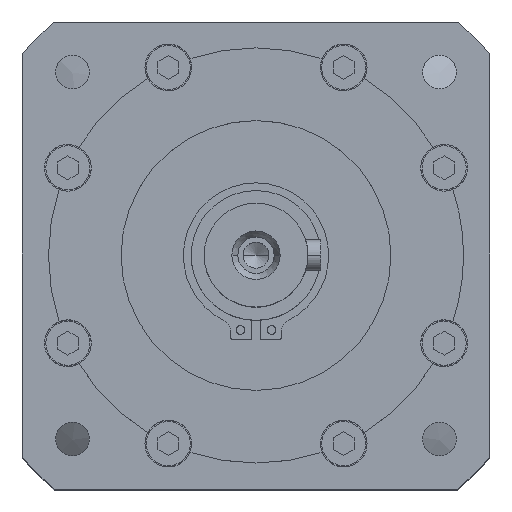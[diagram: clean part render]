
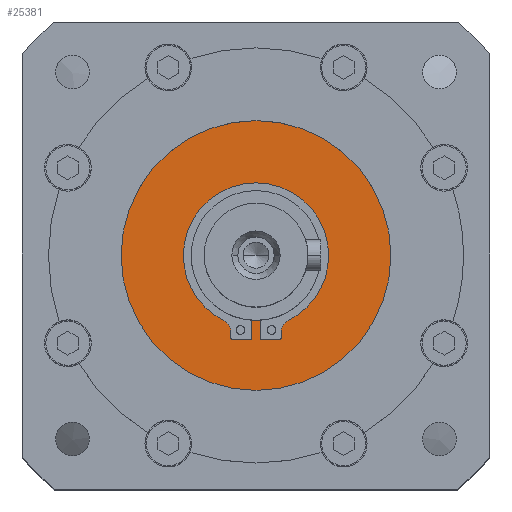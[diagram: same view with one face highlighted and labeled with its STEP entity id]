
A CAD part, top view. The second image highlights one B-rep face of the part: STEP entity #25381.
In plain terms, the highlighted planar face has unit normal (0, 0, 1).
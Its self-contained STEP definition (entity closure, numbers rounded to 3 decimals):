
#159 = EDGE_CURVE ( 'NONE', #29884, #28999, #27713, .T. ) ;
#220 = ORIENTED_EDGE ( 'NONE', *, *, #12203, .F. ) ;
#523 = CIRCLE ( 'NONE', #808, 14. ) ;
#554 = DIRECTION ( 'NONE',  ( 1., 0., 0. ) ) ;
#628 = VERTEX_POINT ( 'NONE', #10510 ) ;
#808 = AXIS2_PLACEMENT_3D ( 'NONE', #20336, #10977, #16432 ) ;
#1305 = EDGE_CURVE ( 'NONE', #21038, #26041, #29441, .T. ) ;
#1540 = DIRECTION ( 'NONE',  ( 0., 1., 0. ) ) ;
#1590 = ORIENTED_EDGE ( 'NONE', *, *, #14508, .T. ) ;
#1716 = CARTESIAN_POINT ( 'NONE',  ( -0.85, 0., -2.5 ) ) ;
#2380 = FACE_BOUND ( 'NONE', #7178, .T. ) ;
#2813 = AXIS2_PLACEMENT_3D ( 'NONE', #22377, #20304, #20301 ) ;
#3225 = ORIENTED_EDGE ( 'NONE', *, *, #15211, .F. ) ;
#3475 = VERTEX_POINT ( 'NONE', #12165 ) ;
#3500 = VERTEX_POINT ( 'NONE', #13215 ) ;
#3594 = DIRECTION ( 'NONE',  ( 0., 1., 0. ) ) ;
#3627 = CARTESIAN_POINT ( 'NONE',  ( 4.85, 0., -2.5 ) ) ;
#3633 = VECTOR ( 'NONE', #554, 1000. ) ;
#3739 = VERTEX_POINT ( 'NONE', #29012 ) ;
#3824 = DIRECTION ( 'NONE',  ( -1., 0., 0. ) ) ;
#3859 = DIRECTION ( 'NONE',  ( 0., 0., 1. ) ) ;
#3861 = CARTESIAN_POINT ( 'NONE',  ( 0., 0., -2.5 ) ) ;
#3950 = DIRECTION ( 'NONE',  ( 0., 0., 1. ) ) ;
#4196 = VECTOR ( 'NONE', #7322, 1000. ) ;
#4237 = DIRECTION ( 'NONE',  ( 0., 0., -1. ) ) ;
#4371 = ORIENTED_EDGE ( 'NONE', *, *, #1305, .F. ) ;
#4476 = DIRECTION ( 'NONE',  ( 1., 0., 0. ) ) ;
#5043 = VERTEX_POINT ( 'NONE', #15648 ) ;
#5257 = ORIENTED_EDGE ( 'NONE', *, *, #19898, .F. ) ;
#5533 = AXIS2_PLACEMENT_3D ( 'NONE', #27562, #27532, #27501 ) ;
#5822 = CIRCLE ( 'NONE', #5533, 2.5 ) ;
#5850 = AXIS2_PLACEMENT_3D ( 'NONE', #27221, #3950, #6952 ) ;
#5882 = CARTESIAN_POINT ( 'NONE',  ( -0.85, -12.471, -2.5 ) ) ;
#6154 = CARTESIAN_POINT ( 'NONE',  ( -4.85, -15.771, -2.5 ) ) ;
#6175 = VERTEX_POINT ( 'NONE', #8781 ) ;
#6491 = LINE ( 'NONE', #10693, #8969 ) ;
#6531 = AXIS2_PLACEMENT_3D ( 'NONE', #29730, #29699, #29672 ) ;
#6548 = EDGE_CURVE ( 'NONE', #3500, #23336, #523, .T. ) ;
#6550 = VERTEX_POINT ( 'NONE', #8403 ) ;
#6921 = CARTESIAN_POINT ( 'NONE',  ( -4.85, 0., -2.5 ) ) ;
#6952 = DIRECTION ( 'NONE',  ( -1., 0., 0. ) ) ;
#6965 = CIRCLE ( 'NONE', #20307, 26. ) ;
#7145 = ORIENTED_EDGE ( 'NONE', *, *, #159, .T. ) ;
#7178 = EDGE_LOOP ( 'NONE', ( #17180, #15355, #4371, #27503, #7927, #11169, #5257, #220, #30427, #3225, #14096, #25472, #10734, #13876 ) ) ;
#7322 = DIRECTION ( 'NONE',  ( 1., 0., 0. ) ) ;
#7432 = CARTESIAN_POINT ( 'NONE',  ( -4.85, -14.773, -2.5 ) ) ;
#7529 = CARTESIAN_POINT ( 'NONE',  ( 0., -16.271, -2.5 ) ) ;
#7856 = VERTEX_POINT ( 'NONE', #28739 ) ;
#7927 = ORIENTED_EDGE ( 'NONE', *, *, #21279, .F. ) ;
#8138 = CIRCLE ( 'NONE', #15097, 0.5 ) ;
#8403 = CARTESIAN_POINT ( 'NONE',  ( -0.85, -16.271, -2.5 ) ) ;
#8449 = AXIS2_PLACEMENT_3D ( 'NONE', #10475, #24089, #10597 ) ;
#8781 = CARTESIAN_POINT ( 'NONE',  ( -4.35, -16.271, -2.5 ) ) ;
#8969 = VECTOR ( 'NONE', #11464, 1000. ) ;
#10136 = CARTESIAN_POINT ( 'NONE',  ( 0., 0., -2.5 ) ) ;
#10155 = LINE ( 'NONE', #3627, #22854 ) ;
#10191 = EDGE_CURVE ( 'NONE', #11331, #5043, #18915, .T. ) ;
#10238 = CARTESIAN_POINT ( 'NONE',  ( 6.236, -12.534, -2.5 ) ) ;
#10383 = EDGE_CURVE ( 'NONE', #628, #3475, #10155, .T. ) ;
#10398 = LINE ( 'NONE', #1716, #26780 ) ;
#10475 = CARTESIAN_POINT ( 'NONE',  ( 0., 0., -2.5 ) ) ;
#10510 = CARTESIAN_POINT ( 'NONE',  ( 4.85, -15.771, -2.5 ) ) ;
#10597 = DIRECTION ( 'NONE',  ( -1., 0., 0. ) ) ;
#10693 = CARTESIAN_POINT ( 'NONE',  ( 0.85, 0., -2.5 ) ) ;
#10734 = ORIENTED_EDGE ( 'NONE', *, *, #15918, .F. ) ;
#10977 = DIRECTION ( 'NONE',  ( 0., 0., 1. ) ) ;
#11169 = ORIENTED_EDGE ( 'NONE', *, *, #6548, .F. ) ;
#11331 = VERTEX_POINT ( 'NONE', #20615 ) ;
#11464 = DIRECTION ( 'NONE',  ( 0., -1., 0. ) ) ;
#11748 = CIRCLE ( 'NONE', #22921, 2.5 ) ;
#12165 = CARTESIAN_POINT ( 'NONE',  ( 4.85, -14.773, -2.5 ) ) ;
#12203 = EDGE_CURVE ( 'NONE', #3475, #24230, #5822, .T. ) ;
#12544 = DIRECTION ( 'NONE',  ( -1., 0., 0. ) ) ;
#13215 = CARTESIAN_POINT ( 'NONE',  ( 14., 0., -2.5 ) ) ;
#13841 = DIRECTION ( 'NONE',  ( 0., 0., 1. ) ) ;
#13876 = ORIENTED_EDGE ( 'NONE', *, *, #14585, .F. ) ;
#14096 = ORIENTED_EDGE ( 'NONE', *, *, #10191, .F. ) ;
#14508 = EDGE_CURVE ( 'NONE', #28999, #29884, #6965, .T. ) ;
#14585 = EDGE_CURVE ( 'NONE', #6550, #21175, #10398, .T. ) ;
#14861 = CARTESIAN_POINT ( 'NONE',  ( 0., -16.271, -2.5 ) ) ;
#15011 = LINE ( 'NONE', #14861, #3633 ) ;
#15097 = AXIS2_PLACEMENT_3D ( 'NONE', #16916, #16785, #16714 ) ;
#15211 = EDGE_CURVE ( 'NONE', #5043, #628, #8138, .T. ) ;
#15355 = ORIENTED_EDGE ( 'NONE', *, *, #16185, .F. ) ;
#15434 = EDGE_CURVE ( 'NONE', #3739, #11331, #6491, .T. ) ;
#15648 = CARTESIAN_POINT ( 'NONE',  ( 4.35, -16.271, -2.5 ) ) ;
#15918 = EDGE_CURVE ( 'NONE', #21175, #3739, #20245, .T. ) ;
#16185 = EDGE_CURVE ( 'NONE', #26041, #6175, #28458, .T. ) ;
#16432 = DIRECTION ( 'NONE',  ( -1., 0., 0. ) ) ;
#16714 = DIRECTION ( 'NONE',  ( -1., 0., 0. ) ) ;
#16785 = DIRECTION ( 'NONE',  ( 0., 0., 1. ) ) ;
#16916 = CARTESIAN_POINT ( 'NONE',  ( 4.35, -15.771, -2.5 ) ) ;
#17180 = ORIENTED_EDGE ( 'NONE', *, *, #23652, .F. ) ;
#18747 = DIRECTION ( 'NONE',  ( 0., -1., 0. ) ) ;
#18915 = LINE ( 'NONE', #7529, #4196 ) ;
#19898 = EDGE_CURVE ( 'NONE', #24230, #3500, #23722, .T. ) ;
#20128 = EDGE_LOOP ( 'NONE', ( #1590, #7145 ) ) ;
#20245 = CIRCLE ( 'NONE', #8449, 12.5 ) ;
#20301 = DIRECTION ( 'NONE',  ( 1., 0., 0. ) ) ;
#20304 = DIRECTION ( 'NONE',  ( 0., 0., 1. ) ) ;
#20307 = AXIS2_PLACEMENT_3D ( 'NONE', #25780, #13841, #4476 ) ;
#20336 = CARTESIAN_POINT ( 'NONE',  ( 0., 0., -2.5 ) ) ;
#20615 = CARTESIAN_POINT ( 'NONE',  ( 0.85, -16.271, -2.5 ) ) ;
#21038 = VERTEX_POINT ( 'NONE', #7432 ) ;
#21175 = VERTEX_POINT ( 'NONE', #5882 ) ;
#21279 = EDGE_CURVE ( 'NONE', #23336, #7856, #26461, .T. ) ;
#21561 = CARTESIAN_POINT ( 'NONE',  ( -7.35, -14.773, -2.5 ) ) ;
#21674 = EDGE_CURVE ( 'NONE', #7856, #21038, #11748, .T. ) ;
#21858 = DIRECTION ( 'NONE',  ( -1., 0., 0. ) ) ;
#21976 = CARTESIAN_POINT ( 'NONE',  ( 26., 0., -2.5 ) ) ;
#22377 = CARTESIAN_POINT ( 'NONE',  ( 0., 0., -2.5 ) ) ;
#22854 = VECTOR ( 'NONE', #3594, 1000. ) ;
#22921 = AXIS2_PLACEMENT_3D ( 'NONE', #21561, #4237, #21858 ) ;
#23336 = VERTEX_POINT ( 'NONE', #24953 ) ;
#23652 = EDGE_CURVE ( 'NONE', #6175, #6550, #15011, .T. ) ;
#23722 = CIRCLE ( 'NONE', #5850, 14. ) ;
#23735 = AXIS2_PLACEMENT_3D ( 'NONE', #10136, #26684, #12544 ) ;
#24089 = DIRECTION ( 'NONE',  ( 0., 0., 1. ) ) ;
#24230 = VERTEX_POINT ( 'NONE', #10238 ) ;
#24953 = CARTESIAN_POINT ( 'NONE',  ( -14., 0., -2.5 ) ) ;
#25381 = ADVANCED_FACE ( 'NONE', ( #2380, #28207 ), #26580, .F. ) ;
#25472 = ORIENTED_EDGE ( 'NONE', *, *, #15434, .F. ) ;
#25780 = CARTESIAN_POINT ( 'NONE',  ( 0., 0., -2.5 ) ) ;
#26041 = VERTEX_POINT ( 'NONE', #6154 ) ;
#26461 = CIRCLE ( 'NONE', #26487, 14. ) ;
#26487 = AXIS2_PLACEMENT_3D ( 'NONE', #3861, #3859, #3824 ) ;
#26580 = PLANE ( 'NONE',  #23735 ) ;
#26684 = DIRECTION ( 'NONE',  ( 0., 0., -1. ) ) ;
#26780 = VECTOR ( 'NONE', #1540, 1000. ) ;
#27221 = CARTESIAN_POINT ( 'NONE',  ( 0., 0., -2.5 ) ) ;
#27501 = DIRECTION ( 'NONE',  ( -1., 0., 0. ) ) ;
#27503 = ORIENTED_EDGE ( 'NONE', *, *, #21674, .F. ) ;
#27532 = DIRECTION ( 'NONE',  ( 0., 0., -1. ) ) ;
#27562 = CARTESIAN_POINT ( 'NONE',  ( 7.35, -14.773, -2.5 ) ) ;
#27713 = CIRCLE ( 'NONE', #2813, 26. ) ;
#28207 = FACE_OUTER_BOUND ( 'NONE', #20128, .T. ) ;
#28222 = CARTESIAN_POINT ( 'NONE',  ( -26., 0., -2.5 ) ) ;
#28458 = CIRCLE ( 'NONE', #6531, 0.5 ) ;
#28587 = VECTOR ( 'NONE', #18747, 1000. ) ;
#28739 = CARTESIAN_POINT ( 'NONE',  ( -6.236, -12.534, -2.5 ) ) ;
#28999 = VERTEX_POINT ( 'NONE', #21976 ) ;
#29012 = CARTESIAN_POINT ( 'NONE',  ( 0.85, -12.471, -2.5 ) ) ;
#29441 = LINE ( 'NONE', #6921, #28587 ) ;
#29672 = DIRECTION ( 'NONE',  ( -1., 0., 0. ) ) ;
#29699 = DIRECTION ( 'NONE',  ( 0., 0., 1. ) ) ;
#29730 = CARTESIAN_POINT ( 'NONE',  ( -4.35, -15.771, -2.5 ) ) ;
#29884 = VERTEX_POINT ( 'NONE', #28222 ) ;
#30427 = ORIENTED_EDGE ( 'NONE', *, *, #10383, .F. ) ;
